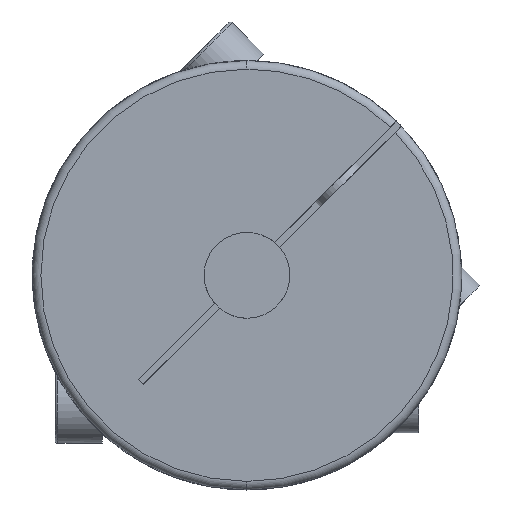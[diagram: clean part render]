
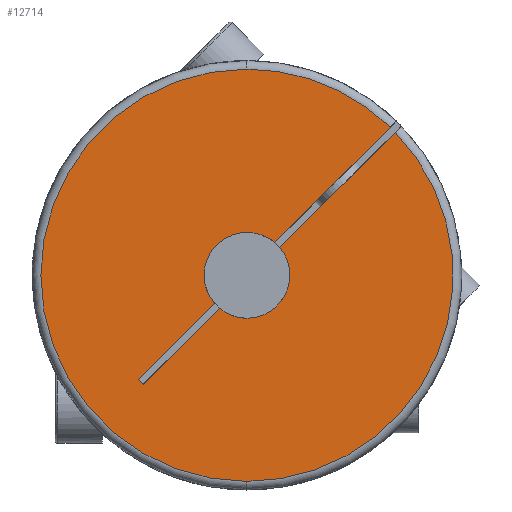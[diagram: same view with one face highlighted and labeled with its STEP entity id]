
A CAD part, left-side view. The second image highlights one B-rep face of the part: STEP entity #12714.
In plain terms, the highlighted planar face has unit normal (-1, 0, 0).
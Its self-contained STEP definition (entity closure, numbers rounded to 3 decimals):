
#168 = VECTOR ( 'NONE', #4155, 1000. ) ;
#610 = CARTESIAN_POINT ( 'NONE',  ( -17.5, 1.937, -2.291 ) ) ;
#693 = DIRECTION ( 'NONE',  ( 0., 0., 1. ) ) ;
#779 = CARTESIAN_POINT ( 'NONE',  ( -17.5, 7.248, -7.601 ) ) ;
#807 = LINE ( 'NONE', #11229, #168 ) ;
#889 = LINE ( 'NONE', #12758, #8611 ) ;
#997 = ORIENTED_EDGE ( 'NONE', *, *, #3199, .F. ) ;
#1069 = DIRECTION ( 'NONE',  ( 0., 0.707, -0.707 ) ) ;
#1105 = DIRECTION ( 'NONE',  ( -1., 0., 0. ) ) ;
#1130 = AXIS2_PLACEMENT_3D ( 'NONE', #4892, #11960, #5912 ) ;
#1170 = DIRECTION ( 'NONE',  ( -1., 0., 0. ) ) ;
#1212 = CIRCLE ( 'NONE', #2909, 3. ) ;
#1338 = CARTESIAN_POINT ( 'NONE',  ( -17.5, 15., 0. ) ) ;
#1618 = EDGE_LOOP ( 'NONE', ( #11618, #997, #4221, #5023, #8215, #11684, #7756, #5411, #4301, #10737, #4326, #11941 ) ) ;
#1888 = CARTESIAN_POINT ( 'NONE',  ( -17.5, 0., 0. ) ) ;
#2045 = VERTEX_POINT ( 'NONE', #12505 ) ;
#2196 = VECTOR ( 'NONE', #8833, 1000. ) ;
#2316 = CARTESIAN_POINT ( 'NONE',  ( -17.5, 7.248, -7.601 ) ) ;
#2545 = VERTEX_POINT ( 'NONE', #2316 ) ;
#2565 = VERTEX_POINT ( 'NONE', #12412 ) ;
#2632 = CARTESIAN_POINT ( 'NONE',  ( -17.5, -2.291, 1.937 ) ) ;
#2669 = CARTESIAN_POINT ( 'NONE',  ( -17.5, 0., 14.4 ) ) ;
#2700 = CARTESIAN_POINT ( 'NONE',  ( -17.5, 0., 0. ) ) ;
#2735 = CARTESIAN_POINT ( 'NONE',  ( -17.5, 7.601, -7.248 ) ) ;
#2888 = DIRECTION ( 'NONE',  ( 0., 0., -1. ) ) ;
#2909 = AXIS2_PLACEMENT_3D ( 'NONE', #7127, #1105, #8162 ) ;
#2952 = VERTEX_POINT ( 'NONE', #2669 ) ;
#3199 = EDGE_CURVE ( 'NONE', #4272, #12823, #6081, .T. ) ;
#3404 = VECTOR ( 'NONE', #1069, 1000. ) ;
#3466 = CARTESIAN_POINT ( 'NONE',  ( -17.5, 0., 0. ) ) ;
#3576 = VECTOR ( 'NONE', #9579, 1000. ) ;
#3704 = DIRECTION ( 'NONE',  ( 0., 0., -1. ) ) ;
#3927 = VERTEX_POINT ( 'NONE', #12351 ) ;
#4155 = DIRECTION ( 'NONE',  ( 0., 0.707, -0.707 ) ) ;
#4221 = ORIENTED_EDGE ( 'NONE', *, *, #13038, .T. ) ;
#4272 = VERTEX_POINT ( 'NONE', #10478 ) ;
#4301 = ORIENTED_EDGE ( 'NONE', *, *, #4688, .F. ) ;
#4326 = ORIENTED_EDGE ( 'NONE', *, *, #7512, .F. ) ;
#4363 = PLANE ( 'NONE',  #5055 ) ;
#4408 = VERTEX_POINT ( 'NONE', #610 ) ;
#4463 = DIRECTION ( 'NONE',  ( 0., 0., -1. ) ) ;
#4591 = AXIS2_PLACEMENT_3D ( 'NONE', #2700, #9747, #3704 ) ;
#4629 = CIRCLE ( 'NONE', #10974, 3. ) ;
#4678 = CIRCLE ( 'NONE', #10231, 14.4 ) ;
#4688 = EDGE_CURVE ( 'NONE', #2545, #4408, #9261, .T. ) ;
#4777 = VERTEX_POINT ( 'NONE', #2735 ) ;
#4845 = AXIS2_PLACEMENT_3D ( 'NONE', #7207, #1170, #8231 ) ;
#4892 = CARTESIAN_POINT ( 'NONE',  ( -17.5, 0., 0. ) ) ;
#5023 = ORIENTED_EDGE ( 'NONE', *, *, #8189, .T. ) ;
#5055 = AXIS2_PLACEMENT_3D ( 'NONE', #1338, #11435, #5392 ) ;
#5194 = CIRCLE ( 'NONE', #4591, 14.4 ) ;
#5392 = DIRECTION ( 'NONE',  ( 0., 0., -1. ) ) ;
#5411 = ORIENTED_EDGE ( 'NONE', *, *, #10972, .F. ) ;
#5912 = DIRECTION ( 'NONE',  ( 0., 0., 1. ) ) ;
#5933 = CIRCLE ( 'NONE', #6293, 14.4 ) ;
#6081 = LINE ( 'NONE', #7103, #3404 ) ;
#6293 = AXIS2_PLACEMENT_3D ( 'NONE', #3466, #10529, #4463 ) ;
#6707 = DIRECTION ( 'NONE',  ( 0., -0.707, -0.707 ) ) ;
#6713 = DIRECTION ( 'NONE',  ( -1., 0., 0. ) ) ;
#7103 = CARTESIAN_POINT ( 'NONE',  ( -17.5, -13.612, 13.965 ) ) ;
#7127 = CARTESIAN_POINT ( 'NONE',  ( -17.5, 0., 0. ) ) ;
#7190 = VERTEX_POINT ( 'NONE', #2632 ) ;
#7207 = CARTESIAN_POINT ( 'NONE',  ( -17.5, 0., 0. ) ) ;
#7246 = LINE ( 'NONE', #779, #2196 ) ;
#7512 = EDGE_CURVE ( 'NONE', #3927, #4777, #807, .T. ) ;
#7756 = ORIENTED_EDGE ( 'NONE', *, *, #12383, .F. ) ;
#7932 = EDGE_CURVE ( 'NONE', #2565, #3927, #12453, .T. ) ;
#8162 = DIRECTION ( 'NONE',  ( 0., 0., 1. ) ) ;
#8189 = EDGE_CURVE ( 'NONE', #2952, #9357, #5194, .T. ) ;
#8215 = ORIENTED_EDGE ( 'NONE', *, *, #11077, .T. ) ;
#8231 = DIRECTION ( 'NONE',  ( 0., 0., 1. ) ) ;
#8243 = EDGE_CURVE ( 'NONE', #7190, #9437, #7246, .T. ) ;
#8606 = CARTESIAN_POINT ( 'NONE',  ( -17.5, -1.937, 2.291 ) ) ;
#8611 = VECTOR ( 'NONE', #6707, 1000. ) ;
#8833 = DIRECTION ( 'NONE',  ( 0., -0.707, 0.707 ) ) ;
#8872 = CARTESIAN_POINT ( 'NONE',  ( -17.5, 0., -14.4 ) ) ;
#8943 = DIRECTION ( 'NONE',  ( -1., 0., 0. ) ) ;
#9261 = LINE ( 'NONE', #10593, #3576 ) ;
#9357 = VERTEX_POINT ( 'NONE', #8872 ) ;
#9359 = EDGE_CURVE ( 'NONE', #12823, #2565, #12614, .T. ) ;
#9437 = VERTEX_POINT ( 'NONE', #10014 ) ;
#9533 = FACE_OUTER_BOUND ( 'NONE', #1618, .T. ) ;
#9579 = DIRECTION ( 'NONE',  ( 0., -0.707, 0.707 ) ) ;
#9747 = DIRECTION ( 'NONE',  ( -1., 0., 0. ) ) ;
#10014 = CARTESIAN_POINT ( 'NONE',  ( -17.5, -10.358, 10.004 ) ) ;
#10231 = AXIS2_PLACEMENT_3D ( 'NONE', #1888, #8943, #2888 ) ;
#10478 = CARTESIAN_POINT ( 'NONE',  ( -17.5, -10.004, 10.358 ) ) ;
#10529 = DIRECTION ( 'NONE',  ( -1., 0., 0. ) ) ;
#10593 = CARTESIAN_POINT ( 'NONE',  ( -17.5, 7.248, -7.601 ) ) ;
#10737 = ORIENTED_EDGE ( 'NONE', *, *, #11646, .F. ) ;
#10972 = EDGE_CURVE ( 'NONE', #4408, #2045, #1212, .T. ) ;
#10974 = AXIS2_PLACEMENT_3D ( 'NONE', #12766, #6713, #693 ) ;
#11077 = EDGE_CURVE ( 'NONE', #9357, #9437, #5933, .T. ) ;
#11229 = CARTESIAN_POINT ( 'NONE',  ( -17.5, -13.612, 13.965 ) ) ;
#11435 = DIRECTION ( 'NONE',  ( 1., 0., 0. ) ) ;
#11618 = ORIENTED_EDGE ( 'NONE', *, *, #9359, .F. ) ;
#11646 = EDGE_CURVE ( 'NONE', #4777, #2545, #889, .T. ) ;
#11684 = ORIENTED_EDGE ( 'NONE', *, *, #8243, .F. ) ;
#11941 = ORIENTED_EDGE ( 'NONE', *, *, #7932, .F. ) ;
#11960 = DIRECTION ( 'NONE',  ( -1., 0., 0. ) ) ;
#12351 = CARTESIAN_POINT ( 'NONE',  ( -17.5, 2.291, -1.937 ) ) ;
#12383 = EDGE_CURVE ( 'NONE', #2045, #7190, #4629, .T. ) ;
#12412 = CARTESIAN_POINT ( 'NONE',  ( -17.5, 0., 3. ) ) ;
#12453 = CIRCLE ( 'NONE', #4845, 3. ) ;
#12505 = CARTESIAN_POINT ( 'NONE',  ( -17.5, 0., -3. ) ) ;
#12614 = CIRCLE ( 'NONE', #1130, 3. ) ;
#12714 = ADVANCED_FACE ( 'NONE', ( #9533 ), #4363, .F. ) ;
#12758 = CARTESIAN_POINT ( 'NONE',  ( -17.5, 7.601, -7.248 ) ) ;
#12766 = CARTESIAN_POINT ( 'NONE',  ( -17.5, 0., 0. ) ) ;
#12823 = VERTEX_POINT ( 'NONE', #8606 ) ;
#13038 = EDGE_CURVE ( 'NONE', #4272, #2952, #4678, .T. ) ;
